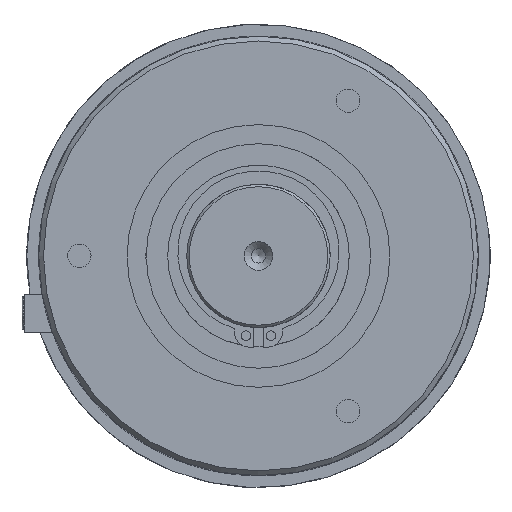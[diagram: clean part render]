
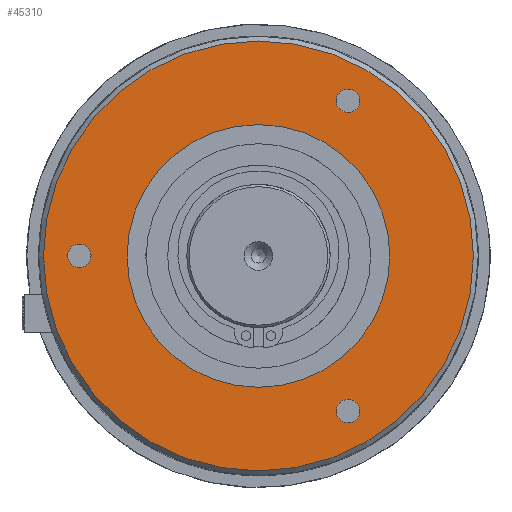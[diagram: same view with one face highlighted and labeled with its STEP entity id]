
A CAD part, left-side view. The second image highlights one B-rep face of the part: STEP entity #45310.
In plain terms, the highlighted planar face has unit normal (-1, 0, 0).
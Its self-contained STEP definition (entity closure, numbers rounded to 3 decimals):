
#3341=FACE_BOUND('',#8300,.T.);
#3342=FACE_BOUND('',#8301,.T.);
#3343=FACE_BOUND('',#8302,.T.);
#3344=FACE_BOUND('',#8303,.T.);
#5869=FACE_OUTER_BOUND('',#8299,.T.);
#8299=EDGE_LOOP('',(#38877));
#8300=EDGE_LOOP('',(#38878));
#8301=EDGE_LOOP('',(#38879));
#8302=EDGE_LOOP('',(#38880));
#8303=EDGE_LOOP('',(#38881));
#13904=CIRCLE('',#50141,2.459);
#13905=CIRCLE('',#50143,2.459);
#13906=CIRCLE('',#50145,2.459);
#14128=CIRCLE('',#51909,45.);
#14129=CIRCLE('',#51911,27.5);
#17753=VERTEX_POINT('',#81341);
#17754=VERTEX_POINT('',#81344);
#17755=VERTEX_POINT('',#81347);
#18637=VERTEX_POINT('',#84873);
#18638=VERTEX_POINT('',#84876);
#23618=EDGE_CURVE('',#17753,#17753,#13904,.T.);
#23619=EDGE_CURVE('',#17754,#17754,#13905,.T.);
#23620=EDGE_CURVE('',#17755,#17755,#13906,.T.);
#25382=EDGE_CURVE('',#18637,#18637,#14128,.T.);
#25383=EDGE_CURVE('',#18638,#18638,#14129,.T.);
#38877=ORIENTED_EDGE('',*,*,#25382,.F.);
#38878=ORIENTED_EDGE('',*,*,#23618,.T.);
#38879=ORIENTED_EDGE('',*,*,#23619,.T.);
#38880=ORIENTED_EDGE('',*,*,#23620,.T.);
#38881=ORIENTED_EDGE('',*,*,#25383,.T.);
#40740=PLANE('',#51912);
#45310=ADVANCED_FACE('',(#5869,#3341,#3342,#3343,#3344),#40740,.T.);
#50141=AXIS2_PLACEMENT_3D('',#81342,#62766,#62767);
#50143=AXIS2_PLACEMENT_3D('',#81345,#62770,#62771);
#50145=AXIS2_PLACEMENT_3D('',#81348,#62774,#62775);
#51909=AXIS2_PLACEMENT_3D('',#84874,#67182,#67183);
#51911=AXIS2_PLACEMENT_3D('',#84877,#67186,#67187);
#51912=AXIS2_PLACEMENT_3D('',#84878,#67188,#67189);
#62766=DIRECTION('center_axis',(1.,0.,0.));
#62767=DIRECTION('ref_axis',(0.,0.,
1.));
#62770=DIRECTION('center_axis',(1.,0.,0.));
#62771=DIRECTION('ref_axis',(0.,0.,
1.));
#62774=DIRECTION('center_axis',(1.,0.,0.));
#62775=DIRECTION('ref_axis',(0.,0.,
1.));
#67182=DIRECTION('center_axis',(1.,0.,0.));
#67183=DIRECTION('ref_axis',(0.,1.,0.));
#67186=DIRECTION('center_axis',(1.,0.,0.));
#67187=DIRECTION('ref_axis',(0.,1.,0.));
#67188=DIRECTION('center_axis',(-1.,0.,0.));
#67189=DIRECTION('ref_axis',(0.,0.,1.));
#81341=CARTESIAN_POINT('',(-31.,-18.75,34.934));
#81342=CARTESIAN_POINT('Origin',(-31.,-18.75,32.476));
#81344=CARTESIAN_POINT('',(-31.,-18.75,-30.017));
#81345=CARTESIAN_POINT('Origin',(-31.,-18.75,-32.476));
#81347=CARTESIAN_POINT('',(-31.,37.5,2.459));
#81348=CARTESIAN_POINT('Origin',(-31.,37.5,0.));
#84873=CARTESIAN_POINT('',(-31.,45.,0.));
#84874=CARTESIAN_POINT('Origin',(-31.,0.,0.));
#84876=CARTESIAN_POINT('',(-31.,27.5,0.));
#84877=CARTESIAN_POINT('Origin',(-31.,0.,0.));
#84878=CARTESIAN_POINT('Origin',(-31.,36.25,0.));
